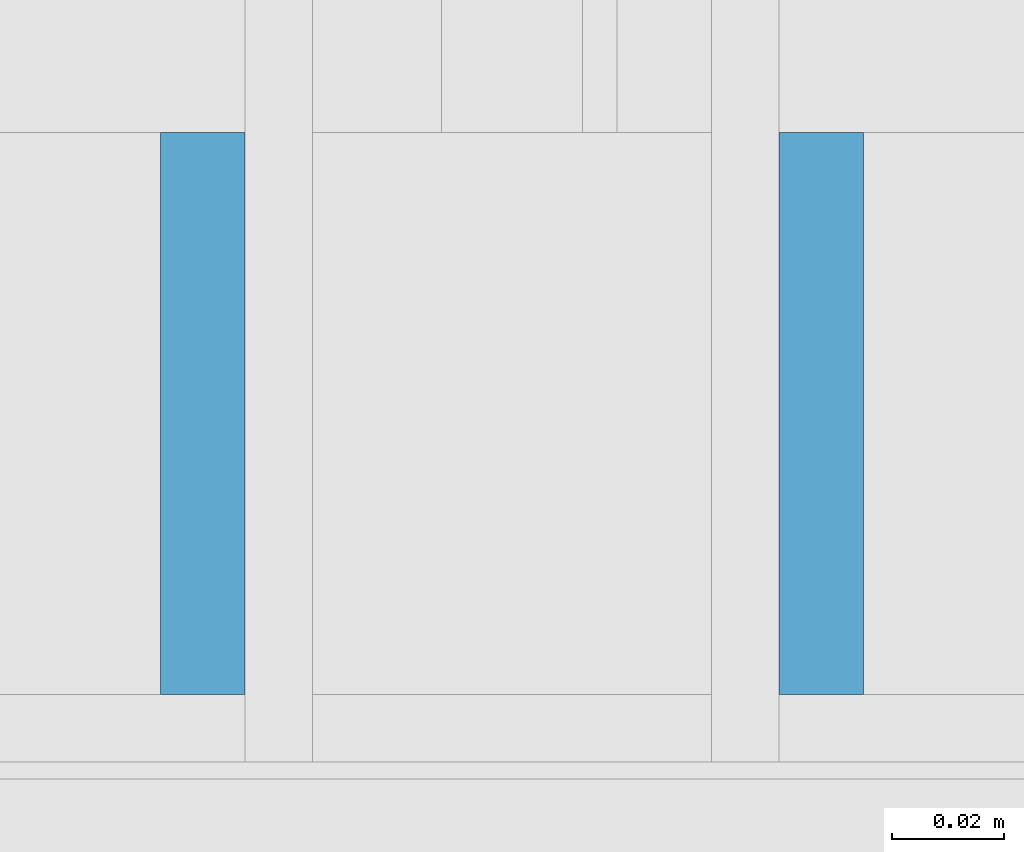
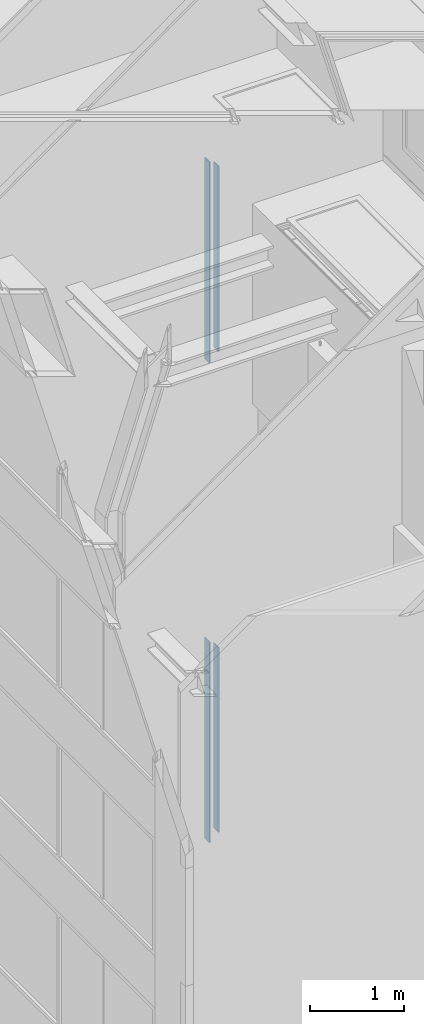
# One storey, part 60 of 583: 4 building element parts, 2 elements without a shape of their own.
"""IFC2X3 building model written with IfcOpenShell, lengths in metres."""

from ifc_helpers import new_model, entity, si_unit, converted_unit, derived_unit, money_unit, direction, frame, origin_with_axes, place, context, subcontext, project, spatial, polyline, outline, extrude, material, type_object, element, aggregate, save


model = new_model("IFC2X3")

# Units and contexts
model_context = context("Model", 3, precision=1e-05, world=origin_with_axes(), true_north=direction((0.0, 1.0)))
body_context = subcontext(model_context, "Body", "Model", "MODEL_VIEW", scale=1.0)
ifc_project = project(units=[si_unit("LENGTHUNIT", "METRE"), si_unit("AREAUNIT", "SQUARE_METRE"), si_unit("VOLUMEUNIT", "CUBIC_METRE"), si_unit("ABSORBEDDOSEUNIT", "GRAY"), si_unit("AMOUNTOFSUBSTANCEUNIT", "MOLE"), si_unit("DOSEEQUIVALENTUNIT", "SIEVERT"), si_unit("ELECTRICCAPACITANCEUNIT", "FARAD"), si_unit("ELECTRICCHARGEUNIT", "COULOMB"), si_unit("ELECTRICCONDUCTANCEUNIT", "SIEMENS"), si_unit("ELECTRICCURRENTUNIT", "AMPERE"), si_unit("ELECTRICRESISTANCEUNIT", "OHM"), si_unit("ELECTRICVOLTAGEUNIT", "VOLT"), si_unit("ENERGYUNIT", "JOULE"), si_unit("FORCEUNIT", "NEWTON"), si_unit("FREQUENCYUNIT", "HERTZ"), si_unit("ILLUMINANCEUNIT", "LUX"), si_unit("INDUCTANCEUNIT", "HENRY"), si_unit("LUMINOUSFLUXUNIT", "LUMEN"), si_unit("LUMINOUSINTENSITYUNIT", "CANDELA"), si_unit("MAGNETICFLUXDENSITYUNIT", "TESLA"), si_unit("MAGNETICFLUXUNIT", "WEBER"), si_unit("MASSUNIT", "GRAM"), converted_unit("PLANEANGLEUNIT", "degree", entity("IfcReal", 0.0174532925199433), si_unit("PLANEANGLEUNIT", "RADIAN"), dimensions=[0, 0, 0, 0, 0, 0, 0]), si_unit("POWERUNIT", "WATT"), si_unit("PRESSUREUNIT", "PASCAL"), si_unit("RADIOACTIVITYUNIT", "BECQUEREL"), si_unit("SOLIDANGLEUNIT", "STERADIAN"), si_unit("THERMODYNAMICTEMPERATUREUNIT", "KELVIN"), si_unit("TIMEUNIT", "SECOND"), derived_unit("ACCELERATIONUNIT", [(si_unit("LENGTHUNIT", "METRE"), 1), (si_unit("TIMEUNIT", "SECOND"), -2)]), derived_unit("ANGULARVELOCITYUNIT", [(converted_unit("PLANEANGLEUNIT", "degree", entity("IfcReal", 0.0174532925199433), si_unit("PLANEANGLEUNIT", "RADIAN"), dimensions=[0, 0, 0, 0, 0, 0, 0]), 1), (si_unit("TIMEUNIT", "SECOND"), -1)]), derived_unit("CURVATUREUNIT", [(converted_unit("PLANEANGLEUNIT", "degree", entity("IfcReal", 0.0174532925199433), si_unit("PLANEANGLEUNIT", "RADIAN"), dimensions=[0, 0, 0, 0, 0, 0, 0]), 1), (si_unit("LENGTHUNIT", "METRE"), -1)]), derived_unit("DYNAMICVISCOSITYUNIT", [(si_unit("PRESSUREUNIT", "PASCAL"), 1), (si_unit("TIMEUNIT", "SECOND"), 1)]), derived_unit("HEATFLUXDENSITYUNIT", [(si_unit("POWERUNIT", "WATT"), 1), (si_unit("LENGTHUNIT", "METRE"), -2)]), derived_unit("HEATINGVALUEUNIT", [(si_unit("ENERGYUNIT", "JOULE"), 1), (si_unit("MASSUNIT", "GRAM"), -1)]), derived_unit("INTEGERCOUNTRATEUNIT", [(si_unit("TIMEUNIT", "SECOND"), -1)]), derived_unit("IONCONCENTRATIONUNIT", [(si_unit("MASSUNIT", "GRAM"), 1), (si_unit("VOLUMEUNIT", "CUBIC_METRE"), -1)]), derived_unit("ISOTHERMALMOISTURECAPACITYUNIT", [(si_unit("VOLUMEUNIT", "CUBIC_METRE"), 1), (si_unit("MASSUNIT", "GRAM"), -1)]), derived_unit("KINEMATICVISCOSITYUNIT", [(si_unit("AREAUNIT", "SQUARE_METRE"), 1), (si_unit("TIMEUNIT", "SECOND"), -1)]), derived_unit("LINEARFORCEUNIT", [(si_unit("FORCEUNIT", "NEWTON"), 1), (si_unit("LENGTHUNIT", "METRE"), -1)]), derived_unit("LINEARMOMENTUNIT", [(si_unit("FORCEUNIT", "NEWTON"), 1), (si_unit("LENGTHUNIT", "METRE"), -1)]), derived_unit("LINEARSTIFFNESSUNIT", [(si_unit("FORCEUNIT", "NEWTON"), 1), (si_unit("LENGTHUNIT", "METRE"), -1)]), derived_unit("LINEARVELOCITYUNIT", [(si_unit("LENGTHUNIT", "METRE"), 1), (si_unit("TIMEUNIT", "SECOND"), -1)]), derived_unit("LUMINOUSINTENSITYDISTRIBUTIONUNIT", [(si_unit("LUMINOUSINTENSITYUNIT", "CANDELA"), 1), (si_unit("LUMINOUSFLUXUNIT", "LUMEN"), -1)]), derived_unit("MASSDENSITYUNIT", [(si_unit("MASSUNIT", "GRAM"), 1), (si_unit("VOLUMEUNIT", "CUBIC_METRE"), -1)]), derived_unit("MASSFLOWRATEUNIT", [(si_unit("MASSUNIT", "GRAM"), 1), (si_unit("TIMEUNIT", "SECOND"), -1)]), derived_unit("MASSPERLENGTHUNIT", [(si_unit("MASSUNIT", "GRAM"), 1), (si_unit("LENGTHUNIT", "METRE"), -1)]), derived_unit("MODULUSOFELASTICITYUNIT", [(si_unit("FORCEUNIT", "NEWTON"), 1), (si_unit("AREAUNIT", "SQUARE_METRE"), -1)]), derived_unit("MODULUSOFLINEARSUBGRADEREACTIONUNIT", [(si_unit("FORCEUNIT", "NEWTON"), 1), (si_unit("LENGTHUNIT", "METRE"), -2)]), derived_unit("MODULUSOFROTATIONALSUBGRADEREACTIONUNIT", [(si_unit("FORCEUNIT", "NEWTON"), 1), (si_unit("LENGTHUNIT", "METRE"), 1)]), derived_unit("MODULUSOFSUBGRADEREACTIONUNIT", [(si_unit("FORCEUNIT", "NEWTON"), 1), (si_unit("VOLUMEUNIT", "CUBIC_METRE"), -1)]), derived_unit("MOISTUREDIFFUSIVITYUNIT", [(si_unit("VOLUMEUNIT", "CUBIC_METRE"), 1), (si_unit("TIMEUNIT", "SECOND"), -1)]), derived_unit("MOLECULARWEIGHTUNIT", [(si_unit("MASSUNIT", "GRAM"), 1), (si_unit("AMOUNTOFSUBSTANCEUNIT", "MOLE"), -1)]), derived_unit("PLANARFORCEUNIT", [(si_unit("FORCEUNIT", "NEWTON"), 1), (si_unit("LENGTHUNIT", "METRE"), -2)]), derived_unit("ROTATIONALFREQUENCYUNIT", [(si_unit("TIMEUNIT", "SECOND"), -1)]), derived_unit("ROTATIONALMASSUNIT", [(si_unit("MASSUNIT", "GRAM"), 1), (si_unit("LENGTHUNIT", "METRE"), 2)]), derived_unit("ROTATIONALSTIFFNESSUNIT", [(si_unit("FORCEUNIT", "NEWTON"), 1), (si_unit("LENGTHUNIT", "METRE"), 1), (converted_unit("PLANEANGLEUNIT", "degree", entity("IfcReal", 0.0174532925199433), si_unit("PLANEANGLEUNIT", "RADIAN"), dimensions=[0, 0, 0, 0, 0, 0, 0]), -1)]), derived_unit("SECTIONAREAINTEGRALUNIT", [(si_unit("LENGTHUNIT", "METRE"), 5)]), derived_unit("SECTIONMODULUSUNIT", [(si_unit("LENGTHUNIT", "METRE"), 3)]), derived_unit("SHEARMODULUSUNIT", [(si_unit("FORCEUNIT", "NEWTON"), 1), (si_unit("AREAUNIT", "SQUARE_METRE"), -1)]), derived_unit("SOUNDPOWERUNIT", [(si_unit("ENERGYUNIT", "JOULE"), 1), (si_unit("TIMEUNIT", "SECOND"), -1)]), derived_unit("SPECIFICHEATCAPACITYUNIT", [(si_unit("FORCEUNIT", "NEWTON"), 1), (si_unit("MASSUNIT", "GRAM"), -1), (si_unit("THERMODYNAMICTEMPERATUREUNIT", "KELVIN"), -1)]), derived_unit("TEMPERATUREGRADIENTUNIT", [(si_unit("THERMODYNAMICTEMPERATUREUNIT", "KELVIN"), 1), (si_unit("LENGTHUNIT", "METRE"), -1)]), derived_unit("THERMALADMITTANCEUNIT", [(si_unit("POWERUNIT", "WATT"), 1), (si_unit("AREAUNIT", "SQUARE_METRE"), -1), (si_unit("THERMODYNAMICTEMPERATUREUNIT", "KELVIN"), -1)]), derived_unit("THERMALCONDUCTANCEUNIT", [(si_unit("POWERUNIT", "WATT"), 1), (si_unit("LENGTHUNIT", "METRE"), -1), (si_unit("THERMODYNAMICTEMPERATUREUNIT", "KELVIN"), -1)]), derived_unit("THERMALEXPANSIONCOEFFICIENTUNIT", [(si_unit("THERMODYNAMICTEMPERATUREUNIT", "KELVIN"), -1)]), derived_unit("THERMALRESISTANCEUNIT", [(si_unit("AREAUNIT", "SQUARE_METRE"), 1), (si_unit("POWERUNIT", "WATT"), -1)]), derived_unit("THERMALTRANSMITTANCEUNIT", [(si_unit("POWERUNIT", "WATT"), 1), (si_unit("AREAUNIT", "SQUARE_METRE"), -1), (si_unit("THERMODYNAMICTEMPERATUREUNIT", "KELVIN"), -1)]), derived_unit("TORQUEUNIT", [(si_unit("FORCEUNIT", "NEWTON"), 1), (si_unit("LENGTHUNIT", "METRE"), 1)]), derived_unit("VAPORPERMEABILITYUNIT", [(si_unit("MASSUNIT", "GRAM"), 1), (si_unit("TIMEUNIT", "SECOND"), -1)]), derived_unit("VOLUMETRICFLOWRATEUNIT", [(si_unit("VOLUMEUNIT", "CUBIC_METRE"), 1), (si_unit("TIMEUNIT", "SECOND"), -1)]), derived_unit("WARPINGCONSTANTUNIT", [(si_unit("LENGTHUNIT", "METRE"), 6)]), derived_unit("WARPINGMOMENTUNIT", [(si_unit("FORCEUNIT", "NEWTON"), 1), (si_unit("LENGTHUNIT", "METRE"), 2)]), money_unit("GBP")], contexts=[model_context])

# Site, building, storey
site_placement = place(None, origin_with_axes())
site = spatial("IfcSite", under=ifc_project, at=site_placement, Name="Site", CompositionType="ELEMENT")
building_placement = place(site_placement, origin_with_axes())
building = spatial("IfcBuilding", under=site, at=building_placement, Name="Building01", CompositionType="ELEMENT")
storey_placement = place(building_placement, frame((0.0, 0.0, 20.78), z_axis=(0.0, 0.0, 1.0), x_axis=(1.0, 0.0, 0.0)))
storey = spatial("IfcBuildingStorey", under=building, at=storey_placement, Name="RL", CompositionType="ELEMENT", Elevation=20.78)

# Wall, building element parts
wall_type = type_object("IfcWallType", Name="SHE_A-Walls_Type05a_Partition_95mm_tall", PredefinedType="NOTDEFINED")
wall_1_placement = place(storey_placement, frame((3.42, 8.64, -2.9125), z_axis=(0.0, 1.0, 0.0), x_axis=(0.0, 0.0, -1.0)))
wall_1 = element("IfcWall", 1, at=wall_1_placement, inside=storey, type_object=wall_type, Name="5A", ObjectType="SHE_A-Walls_Type05a_Partition_95mm_tall")
ifc_material = material(Name="A_BSUK_Walls_Timber")
placement_1 = place(wall_1_placement, origin_with_axes())
building_element_part_1 = element("IfcBuildingElementPart", 2, at=placement_1, material=ifc_material, Name="2", context=body_context, shape_type="SweptSolid", body=[
    extrude(outline(polyline([(2.57, 0.05), (-0.035, 0.05), (-0.035, 0.035), (2.555, 0.035), (2.57, 0.05)])), frame((0.0, 0.0, 0.015), z_axis=(0.0, 0.0, 1.0), x_axis=(1.0, 0.0, 0.0)), (0.0, 0.0, 1.0), 0.1),
])
building_element_part_2 = element("IfcBuildingElementPart", 3, at=placement_1, material=ifc_material, Name="3", context=body_context, shape_type="SweptSolid", body=[
    extrude(outline(polyline([(2.46, -0.06), (0.06, -0.06), (0.06, -0.075), (2.445, -0.075), (2.46, -0.06)])), frame((0.0, 0.0, 0.015), z_axis=(0.0, 0.0, 1.0), x_axis=(1.0, 0.0, 0.0)), (0.0, 0.0, 1.0), 0.1),
])
aggregate(wall_1, [building_element_part_1, building_element_part_2])

wall_2_placement = place(storey_placement, frame((3.42, 8.64, -11.647464), z_axis=(0.0, 1.0, 0.0), x_axis=(0.0, 0.0, -1.0)))
wall_2 = element("IfcWall", 4, at=wall_2_placement, inside=storey, type_object=wall_type, Name="5A", ObjectType="SHE_A-Walls_Type05a_Partition_95mm_tall")
placement_2 = place(wall_2_placement, origin_with_axes())
building_element_part_3 = element("IfcBuildingElementPart", 5, at=placement_2, material=ifc_material, Name="2", context=body_context, shape_type="SweptSolid", body=[
    extrude(outline(polyline([(-2.555, 0.035), (0.035, 0.035), (0.035, 0.05), (-2.57, 0.05), (-2.555, 0.035)])), frame((0.0, 0.0, 0.015), z_axis=(0.0, 0.0, 1.0), x_axis=(1.0, 0.0, 0.0)), (0.0, 0.0, 1.0), 0.1),
])
building_element_part_4 = element("IfcBuildingElementPart", 6, at=placement_2, material=ifc_material, Name="3", context=body_context, shape_type="SweptSolid", body=[
    extrude(outline(polyline([(-2.445, -0.075), (-0.06, -0.075), (-0.06, -0.06), (-2.46, -0.06), (-2.445, -0.075)])), frame((0.0, 0.0, 0.015), z_axis=(0.0, 0.0, 1.0), x_axis=(1.0, 0.0, 0.0)), (0.0, 0.0, 1.0), 0.1),
])
aggregate(wall_2, [building_element_part_3, building_element_part_4])

save(model, "model.ifc")
